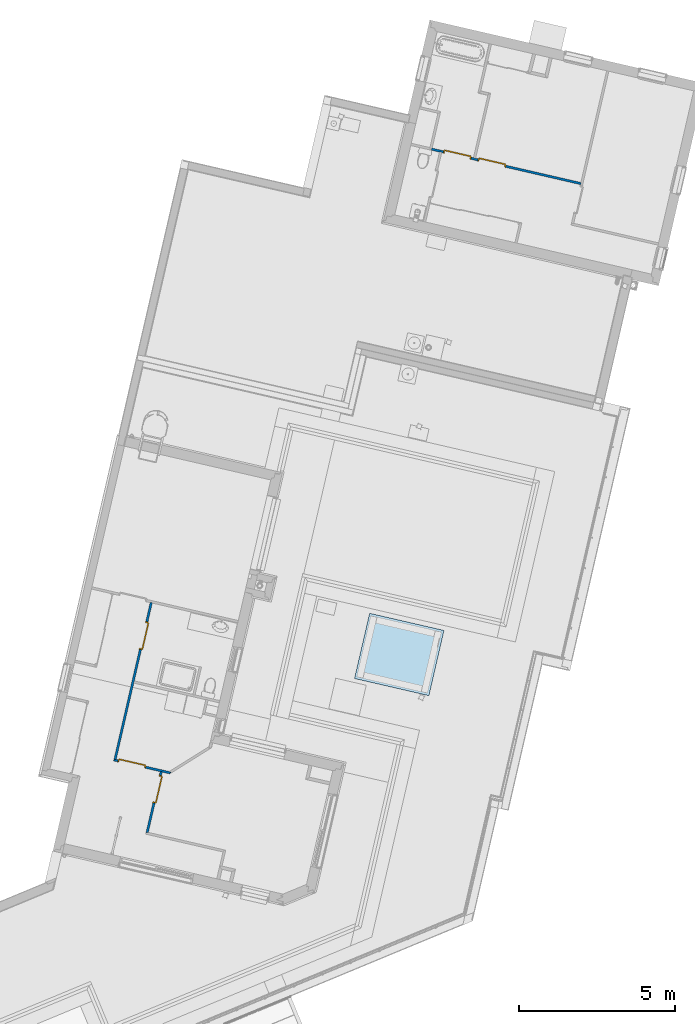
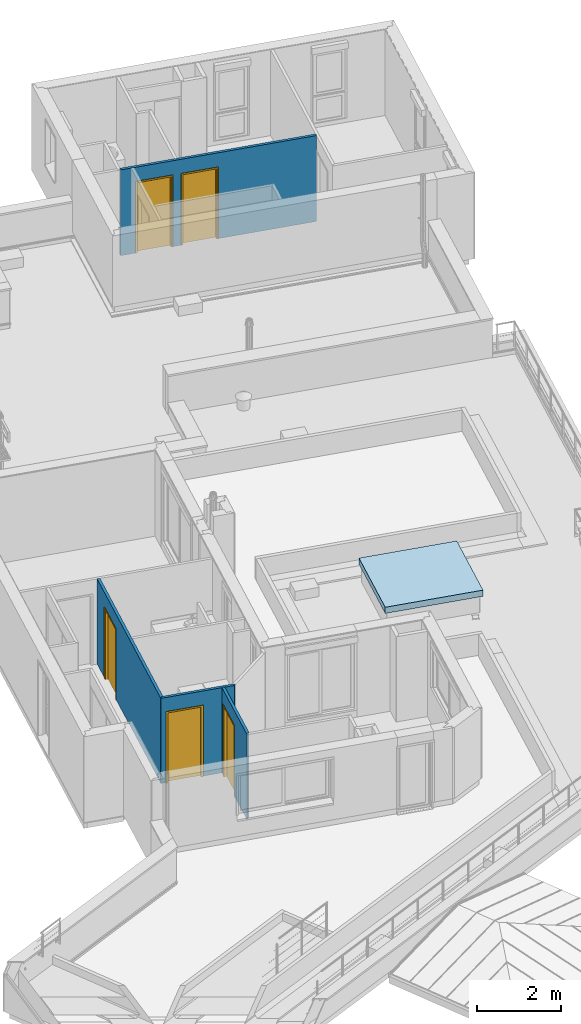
# One storey, part 1 of 47: 5 doors, 4 walls, 1 slab, 5 openings.
"""IFC2X3 building model written with IfcOpenShell, lengths in metres."""

from ifc_helpers import new_model, entity, si_unit, converted_unit, derived_unit, money_unit, direction, frame, origin_with_axes, place, context, subcontext, project, spatial, faceted_brep, source, transform, mapped, material, material_list, type_object, element, fill, save


model = new_model("IFC2X3")

# Units and contexts
model_context = context("Model", 3, precision=1e-05, world=origin_with_axes(), true_north=direction((0.0, 1.0)))
body_context = subcontext(model_context, "Body", "Model", "MODEL_VIEW")
ifc_project = project(units=[si_unit("LENGTHUNIT", "METRE"), si_unit("AREAUNIT", "SQUARE_METRE"), si_unit("VOLUMEUNIT", "CUBIC_METRE"), converted_unit("PLANEANGLEUNIT", "DEGREE", entity("IfcPlaneAngleMeasure", 0.0174532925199), si_unit("PLANEANGLEUNIT", "RADIAN"), dimensions=[0, 0, 0, 0, 0, 0, 0]), si_unit("SOLIDANGLEUNIT", "STERADIAN"), money_unit("EUR"), converted_unit("TIMEUNIT", "Year", entity("IfcTimeMeasure", 31556926.0), si_unit("TIMEUNIT", "SECOND"), dimensions=[0, 0, 1, 0, 0, 0, 0]), si_unit("MASSUNIT", "GRAM", prefix="KILO"), si_unit("THERMODYNAMICTEMPERATUREUNIT", "DEGREE_CELSIUS"), si_unit("LUMINOUSINTENSITYUNIT", "LUMEN"), si_unit("ENERGYUNIT", "JOULE", prefix="MEGA"), derived_unit("THERMALCONDUCTANCEUNIT", [(si_unit("POWERUNIT", "WATT"), 1), (si_unit("LENGTHUNIT", "METRE"), -1), (si_unit("THERMODYNAMICTEMPERATUREUNIT", "KELVIN"), -1)]), derived_unit("SPECIFICHEATCAPACITYUNIT", [(si_unit("ENERGYUNIT", "JOULE"), 1), (si_unit("MASSUNIT", "GRAM", prefix="KILO"), -1), (si_unit("THERMODYNAMICTEMPERATUREUNIT", "KELVIN"), -1)]), derived_unit("MASSDENSITYUNIT", [(si_unit("MASSUNIT", "GRAM", prefix="KILO"), 1), (si_unit("VOLUMEUNIT", "CUBIC_METRE"), -1)])], contexts=[model_context])

# Site, building, storey
site_placement = place(None, origin_with_axes())
site = spatial("IfcSite", under=ifc_project, at=site_placement, Name="Site", CompositionType="ELEMENT")
building_placement = place(site_placement, origin_with_axes())
building = spatial("IfcBuilding", under=site, at=building_placement, Name="Bâtiment", CompositionType="ELEMENT")
storey_placement = place(building_placement, frame((0.0, 0.0, 10.88), z_axis=(0.0, 0.0, 1.0), x_axis=(1.0, 0.0, 0.0)))
storey = spatial("IfcBuildingStorey", under=building, at=storey_placement, Name="R+4", CompositionType="ELEMENT", Elevation=10.88)

# Slab
ifc_material_1 = material(Name="Béton DALLAGE")
slab_type = type_object("IfcSlabType", Name="Béton DALLAGE 180", PredefinedType="ROOF")
slab_placement = place(storey_placement, frame((-9.46752825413, -4.10383265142, 0.859999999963), z_axis=(0.0, 0.0, 1.0), x_axis=(1.0, 0.0, 0.0)))
element("IfcSlab", 1, at=slab_placement, inside=storey, type_object=slab_type, material=ifc_material_1, Name="Dalle_003", PredefinedType="ROOF", context=body_context, shape_type="Brep", body=[
    faceted_brep([(0.0, 0.0, 0.0), (0.0, 0.0, -0.18), (-0.481235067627, -2.08518891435, -0.18), (-0.481235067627, -2.08518891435, 0.0), (2.37750511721, -0.548697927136, 0.0), (2.37750511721, -0.548697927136, -0.18), (1.89627004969, -2.63388684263, -0.18), (1.89627004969, -2.63388684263, 0.0)], [[[0, 1, 2, 3]], [[4, 5, 1, 0]], [[2, 1, 5, 6]], [[3, 2, 6, 7]], [[4, 0, 3, 7]], [[7, 6, 5, 4]]]),
])

# Wall, openings, doors
ifc_material_2 = material(Name="Finition int - Plaque de plâtre")
ifc_material_3 = material(Name="Isolation - Laine de roche")
ifc_material_list = material_list([ifc_material_2, ifc_material_3, ifc_material_2])
wall_type = type_object("IfcWallType", Name="3 - Cloison 72mm Placostil 74", PredefinedType="USERDEFINED")
wall_1_placement = place(storey_placement, frame((-2.73418265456, 9.59035206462, 0.0), z_axis=(0.0, 0.0, 1.0), x_axis=(-0.974387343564, 0.224876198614, 0.0)))
wall_1 = element("IfcWall", 2, at=wall_1_placement, inside=storey, type_object=wall_type, material=ifc_material_list, Name="Cloison Placostil 72/48", ObjectType="PARTITIONING", context=body_context, shape_type="Brep", body=[
    faceted_brep([(4.60639051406, -0.013, 0.0), (4.87496058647, -0.0130000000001, 0.0), (4.87496058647, -0.0130000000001, 2.5), (4.60639051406, -0.013, 2.5), (4.60639051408, 0.0, 0.0), (4.87496058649, 0.0, 0.0), (4.87496058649, 0.0, 2.5), (4.60639051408, 0.0, 2.5)], [[[0, 1, 2, 3]], [[4, 5, 1, 0]], [[5, 6, 2, 1]], [[3, 2, 6, 7]], [[0, 3, 7, 4]], [[7, 6, 5, 4]]]),
    faceted_brep([(4.49917852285, -0.013, 2.08), (4.49917852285, -0.013, 0.0), (4.55839051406, -0.013, 0.0), (4.55839051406, -0.013, 2.5), (0.0, -0.013, 2.5), (0.0, -0.013, 0.0), (2.45283595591, -0.013, 0.0), (2.45283595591, -0.013, 2.08), (3.36283595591, -0.013, 2.08), (3.36283595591, -0.013, 0.0), (3.58917852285, -0.013, 0.0), (3.58917852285, -0.013, 2.08), (4.49917852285, 0.0, 2.08), (4.49917852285, 0.0, 0.0), (4.55839051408, 0.0, 0.0), (4.55839051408, 0.0, 2.5), (0.0, 0.0, 2.5), (0.0, 0.0, 0.0), (2.45283595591, 0.0, 0.0), (2.45283595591, 0.0, 2.08), (3.36283595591, 0.0, 2.08), (3.36283595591, 0.0, 0.0), (3.58917852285, 0.0, 0.0), (3.58917852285, 0.0, 2.08)], [[[0, 1, 2, 3, 4, 5, 6, 7, 8, 9, 10, 11]], [[1, 0, 12, 13]], [[1, 13, 14, 2]], [[3, 2, 14, 15]], [[3, 15, 16, 4]], [[17, 5, 4, 16]], [[6, 5, 17, 18]], [[6, 18, 19, 7]], [[7, 19, 20, 8]], [[8, 20, 21, 9]], [[22, 10, 9, 21]], [[11, 10, 22, 23]], [[0, 11, 23, 12]], [[23, 22, 21, 20, 19, 18, 17, 16, 15, 14, 13, 12]]]),
    faceted_brep([(4.49917852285, -0.061, 2.08), (4.49917852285, -0.0610000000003, 0.0), (4.88796058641, -0.0610000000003, 0.0), (4.88796058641, -0.0610000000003, 2.5), (-0.0130000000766, -0.061, 2.5), (-0.0130000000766, -0.061, 0.0), (2.45283595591, -0.0610000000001, 0.0), (2.45283595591, -0.061, 2.08), (3.36283595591, -0.061, 2.08), (3.36283595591, -0.0610000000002, 0.0), (3.58917852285, -0.0610000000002, 0.0), (3.58917852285, -0.061, 2.08), (4.49917852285, -0.013, 2.08), (4.49917852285, -0.0130000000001, 0.0), (4.88796058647, -0.0130000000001, 0.0), (4.88796058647, -0.0130000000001, 2.5), (-0.0130000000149, -0.013, 2.5), (-0.0130000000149, -0.013, 0.0), (2.45283595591, -0.013, 0.0), (2.45283595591, -0.013, 2.08), (3.36283595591, -0.013, 2.08), (3.36283595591, -0.013, 0.0), (3.58917852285, -0.013, 0.0), (3.58917852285, -0.013, 2.08)], [[[0, 1, 2, 3, 4, 5, 6, 7, 8, 9, 10, 11]], [[1, 0, 12, 13]], [[1, 13, 14, 2]], [[3, 2, 14, 15]], [[15, 16, 4, 3]], [[16, 17, 5, 4]], [[6, 5, 17, 18]], [[6, 18, 19, 7]], [[7, 19, 20, 8]], [[8, 20, 21, 9]], [[22, 10, 9, 21]], [[11, 10, 22, 23]], [[0, 11, 23, 12]], [[23, 22, 21, 20, 19, 18, 17, 16, 15, 14, 13, 12]]]),
    faceted_brep([(4.49917852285, -0.074, 2.08), (4.49917852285, -0.0740000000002, 0.0), (4.8749605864, -0.0740000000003, 0.0), (4.8749605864, -0.0740000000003, 2.5), (3.50916886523, -0.074, 2.5), (3.50916886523, -0.074, 0.0), (3.58917852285, -0.074, 0.0), (3.58917852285, -0.074, 2.08), (4.49917852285, -0.061, 2.08), (4.49917852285, -0.0610000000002, 0.0), (4.87496058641, -0.0610000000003, 0.0), (4.87496058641, -0.0610000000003, 2.5), (3.50916886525, -0.061, 2.5), (3.50916886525, -0.061, 0.0), (3.58917852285, -0.061, 0.0), (3.58917852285, -0.061, 2.08)], [[[0, 1, 2, 3, 4, 5, 6, 7]], [[1, 0, 8, 9]], [[1, 9, 10, 2]], [[11, 3, 2, 10]], [[3, 11, 12, 4]], [[4, 12, 13, 5]], [[14, 6, 5, 13]], [[7, 6, 14, 15]], [[0, 7, 15, 8]], [[15, 14, 13, 12, 11, 10, 9, 8]]]),
    faceted_brep([(3.36283595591, -0.074, 2.08), (3.36283595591, -0.074, 0.0), (3.46116886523, -0.074, 0.0), (3.46116886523, -0.074, 2.5), (0.0, -0.074, 2.5), (0.0, -0.074, 0.0), (2.45283595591, -0.074, 0.0), (2.45283595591, -0.074, 2.08), (3.36283595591, -0.061, 2.08), (3.36283595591, -0.061, 0.0), (3.46116886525, -0.061, 0.0), (3.46116886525, -0.061, 2.5), (0.0, -0.061, 2.5), (0.0, -0.061, 0.0), (2.45283595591, -0.061, 0.0), (2.45283595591, -0.061, 2.08)], [[[0, 1, 2, 3, 4, 5, 6, 7]], [[1, 0, 8, 9]], [[1, 9, 10, 2]], [[11, 3, 2, 10]], [[4, 3, 11, 12]], [[12, 13, 5, 4]], [[14, 6, 5, 13]], [[7, 6, 14, 15]], [[0, 7, 15, 8]], [[15, 14, 13, 12, 11, 10, 9, 8]]]),
])
opening_1_placement = place(wall_1_placement, frame((2.90783595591, 0.0, 0.0), z_axis=(0.0, 0.0, 1.0), x_axis=(1.0, 0.0, 0.0)))
opening_1 = element("IfcOpeningElement", 3, at=opening_1_placement, cuts=wall_1, Name="Porte 83x204 bois alvéolaire", context=body_context, shape_type="Brep", body=[
    faceted_brep([(0.455, -0.074, 0.0), (-0.455, -0.074, 0.0), (-0.455, 0.074, 0.0), (0.455, 0.074, 0.0), (0.455, -0.074, 2.08), (-0.455, -0.074, 2.08), (-0.455, 0.074, 2.08), (0.455, 0.074, 2.08)], [[[0, 1, 2, 3]], [[0, 4, 5, 1]], [[1, 5, 6, 2]], [[3, 2, 6, 7]], [[4, 0, 3, 7]], [[5, 4, 7, 6]]]),
])
opening_2_placement = place(wall_1_placement, frame((4.04417852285, 0.0, 0.0), z_axis=(0.0, 0.0, 1.0), x_axis=(1.0, 0.0, 0.0)))
opening_2 = element("IfcOpeningElement", 4, at=opening_2_placement, cuts=wall_1, Name="Porte 83x204 bois alvéolaire", context=body_context, shape_type="Brep", body=[
    faceted_brep([(-0.455, 0.074, 0.0), (0.455, 0.074, 0.0), (0.455, -0.074, 0.0), (-0.455, -0.074, 0.0), (-0.455, 0.074, 2.08), (0.455, 0.074, 2.08), (0.455, -0.074, 2.08), (-0.455, -0.074, 2.08)], [[[0, 1, 2, 3]], [[0, 4, 5, 1]], [[1, 5, 6, 2]], [[3, 2, 6, 7]], [[4, 0, 3, 7]], [[5, 4, 7, 6]]]),
])
door_style_1 = type_object("IfcDoorStyle", Name="Porte int générique 2019", ConstructionType="NOTDEFINED", OperationType="SINGLE_SWING_RIGHT", ParameterTakesPrecedence=False, Sizeable=False)
shared_shape_1 = source(origin_with_axes(), body_context, "Body", "Brep", [
    faceted_brep([(0.455, 0.0, 0.0), (0.415, 0.0, 0.0), (0.415, 0.0, 2.04), (-0.415, 0.0, 2.04), (-0.415, 0.0, 0.0), (-0.455, 0.0, 0.0), (-0.455, 0.0, 2.08), (0.455, 0.0, 2.08), (0.455, -0.074, 0.0), (0.415, -0.074, 0.0), (0.415, -0.074, 2.04), (-0.415, -0.074, 2.04), (-0.415, -0.074, 0.0), (-0.455, -0.074, 0.0), (-0.455, -0.074, 2.08), (0.455, -0.074, 2.08)], [[[0, 1, 2, 3, 4, 5, 6, 7]], [[0, 8, 9, 1]], [[1, 9, 10, 2]], [[2, 10, 11, 3]], [[3, 11, 12, 4]], [[5, 4, 12, 13]], [[14, 6, 5, 13]], [[15, 7, 6, 14]], [[8, 0, 7, 15]], [[9, 8, 15, 14, 13, 12, 11, 10]]]),
    faceted_brep([(0.465, 0.0, 0.0), (0.465, 0.01, 0.0), (0.465, 0.01, 2.09), (0.465, 0.0, 2.09), (0.435, 0.0, 0.0), (0.435, 0.01, 0.0), (0.435, 0.01, 2.06), (-0.435, 0.01, 2.06), (-0.435, 0.01, 0.0), (-0.465, 0.01, 0.0), (-0.465, 0.01, 2.09), (-0.465, 0.0, 2.09), (-0.465, 0.0, 0.0), (-0.435, 0.0, 0.0), (-0.435, 0.0, 2.06), (0.435, 0.0, 2.06)], [[[0, 1, 2, 3]], [[0, 4, 5, 1]], [[1, 5, 6, 7, 8, 9, 10, 2]], [[3, 2, 10, 11]], [[4, 0, 3, 11, 12, 13, 14, 15]], [[5, 4, 15, 6]], [[6, 15, 14, 7]], [[7, 14, 13, 8]], [[12, 9, 8, 13]], [[11, 10, 9, 12]]]),
    faceted_brep([(0.465, -0.084, 0.0), (0.465, -0.074, 0.0), (0.465, -0.074, 2.09), (0.465, -0.084, 2.09), (0.435, -0.084, 0.0), (0.435, -0.074, 0.0), (0.435, -0.074, 2.06), (-0.435, -0.074, 2.06), (-0.435, -0.074, 0.0), (-0.465, -0.074, 0.0), (-0.465, -0.074, 2.09), (-0.465, -0.084, 2.09), (-0.465, -0.084, 0.0), (-0.435, -0.084, 0.0), (-0.435, -0.084, 2.06), (0.435, -0.084, 2.06)], [[[0, 1, 2, 3]], [[0, 4, 5, 1]], [[1, 5, 6, 7, 8, 9, 10, 2]], [[3, 2, 10, 11]], [[4, 0, 3, 11, 12, 13, 14, 15]], [[5, 4, 15, 6]], [[6, 15, 14, 7]], [[7, 14, 13, 8]], [[12, 9, 8, 13]], [[11, 10, 9, 12]]]),
    faceted_brep([(0.435, 0.04, 0.0), (0.435, 0.0, 0.0), (-0.435, 0.0, 0.0), (-0.435, 0.04, 0.0), (0.435, 0.04, 2.06), (0.435, 0.0, 2.06), (-0.435, 0.0, 2.06), (-0.435, 0.04, 2.06)], [[[0, 1, 2, 3]], [[4, 5, 1, 0]], [[1, 5, 6, 2]], [[3, 2, 6, 7]], [[0, 3, 7, 4]], [[7, 6, 5, 4]]]),
])
door_1_placement = place(opening_2_placement, frame((0.415, 0.0, 0.0), z_axis=(0.0, 0.0, 1.0), x_axis=(-1.0, 0.0, 0.0)))
door_1 = element("IfcDoor", 5, at=door_1_placement, inside=storey, type_object=door_style_1, Name="Porte 83x204 bois alvéolaire", ObjectType="DOOR", OverallHeight=2.04, OverallWidth=0.83, context=body_context, shape_type="MappedRepresentation", body=[
    mapped(shared_shape_1, transform((0.415, 0.074, 0.0))),
])
fill(opening_2, door_1)
door_style_2 = type_object("IfcDoorStyle", Name="Porte int générique 2019", ConstructionType="NOTDEFINED", OperationType="SINGLE_SWING_LEFT", ParameterTakesPrecedence=False, Sizeable=False)
shared_shape_2 = source(origin_with_axes(), body_context, "Body", "Brep", [
    faceted_brep([(-0.455, 0.0, 0.0), (-0.455, 0.0, 2.08), (0.455, 0.0, 2.08), (0.455, 0.0, 0.0), (0.415, 0.0, 0.0), (0.415, 0.0, 2.04), (-0.415, 0.0, 2.04), (-0.415, 0.0, 0.0), (-0.455, -0.074, 0.0), (-0.455, -0.074, 2.08), (0.455, -0.074, 2.08), (0.455, -0.074, 0.0), (0.415, -0.074, 0.0), (0.415, -0.074, 2.04), (-0.415, -0.074, 2.04), (-0.415, -0.074, 0.0)], [[[0, 1, 2, 3, 4, 5, 6, 7]], [[8, 9, 1, 0]], [[9, 10, 2, 1]], [[10, 11, 3, 2]], [[3, 11, 12, 4]], [[5, 4, 12, 13]], [[6, 5, 13, 14]], [[7, 6, 14, 15]], [[0, 7, 15, 8]], [[15, 14, 13, 12, 11, 10, 9, 8]]]),
    faceted_brep([(-0.465, 0.0, 0.0), (-0.465, 0.0, 2.09), (-0.465, 0.01, 2.09), (-0.465, 0.01, 0.0), (-0.435, 0.0, 0.0), (-0.435, 0.0, 2.06), (0.435, 0.0, 2.06), (0.435, 0.0, 0.0), (0.465, 0.0, 0.0), (0.465, 0.0, 2.09), (0.465, 0.01, 2.09), (0.465, 0.01, 0.0), (0.435, 0.01, 0.0), (0.435, 0.01, 2.06), (-0.435, 0.01, 2.06), (-0.435, 0.01, 0.0)], [[[0, 1, 2, 3]], [[4, 5, 6, 7, 8, 9, 1, 0]], [[1, 9, 10, 2]], [[3, 2, 10, 11, 12, 13, 14, 15]], [[0, 3, 15, 4]], [[15, 14, 5, 4]], [[14, 13, 6, 5]], [[13, 12, 7, 6]], [[8, 7, 12, 11]], [[9, 8, 11, 10]]]),
    faceted_brep([(-0.465, -0.084, 0.0), (-0.465, -0.084, 2.09), (-0.465, -0.074, 2.09), (-0.465, -0.074, 0.0), (-0.435, -0.084, 0.0), (-0.435, -0.084, 2.06), (0.435, -0.084, 2.06), (0.435, -0.084, 0.0), (0.465, -0.084, 0.0), (0.465, -0.084, 2.09), (0.465, -0.074, 2.09), (0.465, -0.074, 0.0), (0.435, -0.074, 0.0), (0.435, -0.074, 2.06), (-0.435, -0.074, 2.06), (-0.435, -0.074, 0.0)], [[[0, 1, 2, 3]], [[4, 5, 6, 7, 8, 9, 1, 0]], [[1, 9, 10, 2]], [[3, 2, 10, 11, 12, 13, 14, 15]], [[0, 3, 15, 4]], [[15, 14, 5, 4]], [[14, 13, 6, 5]], [[13, 12, 7, 6]], [[8, 7, 12, 11]], [[9, 8, 11, 10]]]),
    faceted_brep([(-0.435, 0.04, 0.0), (0.435, 0.04, 0.0), (0.435, 0.0, 0.0), (-0.435, 0.0, 0.0), (-0.435, 0.04, 2.06), (0.435, 0.04, 2.06), (0.435, 0.0, 2.06), (-0.435, 0.0, 2.06)], [[[0, 1, 2, 3]], [[0, 4, 5, 1]], [[1, 5, 6, 2]], [[3, 2, 6, 7]], [[4, 0, 3, 7]], [[5, 4, 7, 6]]]),
])
door_2_placement = place(opening_1_placement, frame((0.415, 0.0, 0.0), z_axis=(0.0, 0.0, 1.0), x_axis=(-1.0, 0.0, 0.0)))
door_2 = element("IfcDoor", 6, at=door_2_placement, inside=storey, type_object=door_style_2, Name="Porte 83x204 bois alvéolaire", ObjectType="DOOR", OverallHeight=2.04, OverallWidth=0.83, context=body_context, shape_type="MappedRepresentation", body=[
    mapped(shared_shape_2, transform((0.415, 0.074, 0.0))),
])
fill(opening_1, door_2)

# Wall, opening, door
wall_2_placement = place(storey_placement, frame((-17.6485950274, -8.82295164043, 0.0), z_axis=(0.0, 0.0, 1.0), x_axis=(0.974387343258, -0.224876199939, 0.0)))
wall_2 = element("IfcWall", 7, at=wall_2_placement, inside=storey, type_object=wall_type, material=ifc_material_list, Name="Cloison Placostil 72/48", ObjectType="PARTITIONING", context=body_context, shape_type="Brep", body=[
    faceted_brep([(0.135588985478, 0.074, 2.08), (0.135588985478, 0.074, 0.02), (0.0609999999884, 0.074, 0.02), (0.0609999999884, 0.074, 2.5), (1.82889778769, 0.074, 2.5), (1.82889778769, 0.074, 0.02), (1.04558898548, 0.074, 0.02), (1.04558898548, 0.074, 2.08), (0.135588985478, 0.061, 2.08), (0.135588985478, 0.061, 0.02), (0.0609999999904, 0.061, 0.02), (0.0609999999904, 0.061, 2.5), (1.81589778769, 0.061, 2.5), (1.81589778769, 0.061, 0.02), (1.04558898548, 0.061, 0.02), (1.04558898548, 0.061, 2.08)], [[[0, 1, 2, 3, 4, 5, 6, 7]], [[1, 0, 8, 9]], [[1, 9, 10, 2]], [[10, 11, 3, 2]], [[4, 3, 11, 12]], [[5, 4, 12, 13]], [[14, 6, 5, 13]], [[7, 6, 14, 15]], [[0, 7, 15, 8]], [[15, 14, 13, 12, 11, 10, 9, 8]]]),
    faceted_brep([(0.135588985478, 0.061, 2.08), (0.135588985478, 0.061, 0.02), (0.0129999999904, 0.061, 0.02), (0.0129999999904, 0.061, 2.5), (1.88378003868, 0.061, 2.5), (1.88378003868, 0.061, 0.02), (1.04558898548, 0.061, 0.02), (1.04558898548, 0.061, 2.08), (0.135588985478, 0.013, 2.08), (0.135588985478, 0.013, 0.02), (0.012999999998, 0.013, 0.02), (0.012999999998, 0.013, 2.5), (1.83578003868, 0.013, 2.5), (1.83578003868, 0.013, 0.02), (1.04558898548, 0.013, 0.02), (1.04558898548, 0.013, 2.08)], [[[0, 1, 2, 3, 4, 5, 6, 7]], [[1, 0, 8, 9]], [[1, 9, 10, 2]], [[10, 11, 3, 2]], [[4, 3, 11, 12]], [[5, 4, 12, 13]], [[14, 6, 5, 13]], [[7, 6, 14, 15]], [[0, 7, 15, 8]], [[15, 14, 13, 12, 11, 10, 9, 8]]]),
    faceted_brep([(0.135588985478, 0.013, 2.08), (0.135588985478, 0.013, 0.02), (0.0, 0.013, 0.02), (0.0, 0.013, 2.5), (1.53700000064, 0.013, 2.5), (1.53700000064, 0.013, 0.02), (1.04558898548, 0.013, 0.02), (1.04558898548, 0.013, 2.08), (0.135588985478, 0.0, 2.08), (0.135588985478, 0.0, 0.02), (0.0, 0.0, 0.02), (0.0, 0.0, 2.5), (1.53700000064, 0.0, 2.5), (1.53700000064, 0.0, 0.02), (1.04558898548, 0.0, 0.02), (1.04558898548, 0.0, 2.08)], [[[0, 1, 2, 3, 4, 5, 6, 7]], [[1, 0, 8, 9]], [[1, 9, 10, 2]], [[10, 11, 3, 2]], [[4, 3, 11, 12]], [[5, 4, 12, 13]], [[14, 6, 5, 13]], [[7, 6, 14, 15]], [[0, 7, 15, 8]], [[15, 14, 13, 12, 11, 10, 9, 8]]]),
    faceted_brep([(1.841164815, 0.0, 0.02), (1.85416481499, 0.013, 0.02), (1.85416481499, 0.013, 2.5), (1.841164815, 0.0, 2.5), (1.58500000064, 0.013, 0.02), (1.58500000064, 0.0, 0.02), (1.58500000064, 0.013, 2.5), (1.58500000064, 0.0, 2.5)], [[[0, 1, 2, 3]], [[4, 1, 0, 5]], [[1, 4, 6, 2]], [[3, 2, 6, 7]], [[5, 0, 3, 7]], [[4, 5, 7, 6]]]),
])
opening_3_placement = place(wall_2_placement, frame((0.590588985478, 0.0, 0.0), z_axis=(0.0, 0.0, 1.0), x_axis=(1.0, 0.0, 0.0)))
opening_3 = element("IfcOpeningElement", 8, at=opening_3_placement, cuts=wall_2, Name="Porte 83x204 bois alvéolaire", context=body_context, shape_type="Brep", body=[
    faceted_brep([(-0.455, 0.074, 0.0), (0.455, 0.074, 0.0), (0.455, -0.074, 0.0), (-0.455, -0.074, 0.0), (-0.455, 0.074, 2.08), (0.455, 0.074, 2.08), (0.455, -0.074, 2.08), (-0.455, -0.074, 2.08)], [[[0, 1, 2, 3]], [[0, 4, 5, 1]], [[1, 5, 6, 2]], [[3, 2, 6, 7]], [[4, 0, 3, 7]], [[5, 4, 7, 6]]]),
])
shared_shape_3 = source(origin_with_axes(), body_context, "Body", "Brep", [
    faceted_brep([(-0.455, -0.006, 0.0), (-0.455, -0.006, 2.08), (0.455, -0.006, 2.08), (0.455, -0.006, 0.0), (0.415, -0.006, 0.0), (0.415, -0.006, 2.04), (-0.415, -0.006, 2.04), (-0.415, -0.006, 0.0), (-0.455, -0.08, 0.0), (-0.455, -0.08, 2.08), (0.455, -0.08, 2.08), (0.455, -0.08, 0.0), (0.415, -0.08, 0.0), (0.415, -0.08, 2.04), (-0.415, -0.08, 2.04), (-0.415, -0.08, 0.0)], [[[0, 1, 2, 3, 4, 5, 6, 7]], [[8, 9, 1, 0]], [[9, 10, 2, 1]], [[10, 11, 3, 2]], [[3, 11, 12, 4]], [[5, 4, 12, 13]], [[6, 5, 13, 14]], [[7, 6, 14, 15]], [[0, 7, 15, 8]], [[15, 14, 13, 12, 11, 10, 9, 8]]]),
    faceted_brep([(-0.465, -0.006, 0.0), (-0.465, -0.006, 2.09), (-0.465, 0.004, 2.09), (-0.465, 0.004, 0.0), (-0.435, -0.006, 0.0), (-0.435, -0.006, 2.06), (0.435, -0.006, 2.06), (0.435, -0.006, 0.0), (0.465, -0.006, 0.0), (0.465, -0.006, 2.09), (0.465, 0.004, 2.09), (0.465, 0.004, 0.0), (0.435, 0.004, 0.0), (0.435, 0.004, 2.06), (-0.435, 0.004, 2.06), (-0.435, 0.004, 0.0)], [[[0, 1, 2, 3]], [[4, 5, 6, 7, 8, 9, 1, 0]], [[1, 9, 10, 2]], [[3, 2, 10, 11, 12, 13, 14, 15]], [[0, 3, 15, 4]], [[15, 14, 5, 4]], [[14, 13, 6, 5]], [[13, 12, 7, 6]], [[8, 7, 12, 11]], [[9, 8, 11, 10]]]),
    faceted_brep([(-0.465, -0.09, 0.0), (-0.465, -0.09, 2.09), (-0.465, -0.08, 2.09), (-0.465, -0.08, 0.0), (-0.435, -0.09, 0.0), (-0.435, -0.09, 2.06), (0.435, -0.09, 2.06), (0.435, -0.09, 0.0), (0.465, -0.09, 0.0), (0.465, -0.09, 2.09), (0.465, -0.08, 2.09), (0.465, -0.08, 0.0), (0.435, -0.08, 0.0), (0.435, -0.08, 2.06), (-0.435, -0.08, 2.06), (-0.435, -0.08, 0.0)], [[[0, 1, 2, 3]], [[4, 5, 6, 7, 8, 9, 1, 0]], [[1, 9, 10, 2]], [[3, 2, 10, 11, 12, 13, 14, 15]], [[0, 3, 15, 4]], [[15, 14, 5, 4]], [[14, 13, 6, 5]], [[13, 12, 7, 6]], [[8, 7, 12, 11]], [[9, 8, 11, 10]]]),
    faceted_brep([(-0.435, 0.034, 0.0), (0.435, 0.034, 0.0), (0.435, -0.006, 0.0), (-0.435, -0.006, 0.0), (-0.435, 0.034, 2.06), (0.435, 0.034, 2.06), (0.435, -0.006, 2.06), (-0.435, -0.006, 2.06)], [[[0, 1, 2, 3]], [[0, 4, 5, 1]], [[1, 5, 6, 2]], [[3, 2, 6, 7]], [[4, 0, 3, 7]], [[5, 4, 7, 6]]]),
])
door_3_placement = place(opening_3_placement, frame((-0.415, 0.0, 0.0), z_axis=(0.0, 0.0, 1.0), x_axis=(1.0, 0.0, 0.0)))
door_3 = element("IfcDoor", 9, at=door_3_placement, inside=storey, type_object=door_style_2, Name="Porte 83x204 bois alvéolaire", ObjectType="DOOR", OverallHeight=2.04, OverallWidth=0.83, context=body_context, shape_type="MappedRepresentation", body=[
    mapped(shared_shape_3, transform((0.415, 0.08, 0.0))),
])
fill(opening_3, door_3)

wall_3_placement = place(storey_placement, frame((-16.463990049, -3.69006475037, 0.0), z_axis=(0.0, 0.0, 1.0), x_axis=(-0.224876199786, -0.974387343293, 0.0)))
wall_3 = element("IfcWall", 10, at=wall_3_placement, inside=storey, type_object=wall_type, material=ifc_material_list, Name="Cloison Placostil 72/48", ObjectType="PARTITIONING", context=body_context, shape_type="Brep", body=[
    faceted_brep([(1.60330589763, 0.074, 0.02), (1.60330589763, 0.074, 2.08), (0.69330589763, 0.074, 2.08), (0.69330589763, 0.074, 0.02), (0.0740000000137, 0.074, 0.02), (0.0740000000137, 0.074, 2.5), (2.63699999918, 0.074, 2.5), (2.63699999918, 0.074, 0.02), (1.60330589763, 0.061, 0.02), (1.60330589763, 0.061, 2.08), (0.69330589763, 0.061, 2.08), (0.69330589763, 0.061, 0.02), (0.0740000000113, 0.061, 0.02), (0.0740000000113, 0.061, 2.5), (2.63699999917, 0.061, 2.5), (2.63699999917, 0.061, 0.02)], [[[0, 1, 2, 3, 4, 5, 6, 7]], [[1, 0, 8, 9]], [[2, 1, 9, 10]], [[3, 2, 10, 11]], [[3, 11, 12, 4]], [[12, 13, 5, 4]], [[6, 5, 13, 14]], [[7, 6, 14, 15]], [[8, 0, 7, 15]], [[9, 8, 15, 14, 13, 12, 11, 10]]]),
    faceted_brep([(2.68499999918, 0.074, 0.02), (2.68499999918, 0.074, 2.5), (5.19380948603, 0.074, 2.5), (5.19380948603, 0.074, 0.02), (2.68499999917, 0.061, 0.02), (2.68499999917, 0.061, 2.5), (5.19380948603, 0.061, 2.5), (5.19380948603, 0.061, 0.02)], [[[0, 1, 2, 3]], [[0, 4, 5, 1]], [[6, 2, 1, 5]], [[7, 3, 2, 6]], [[4, 0, 3, 7]], [[4, 7, 6, 5]]]),
    faceted_brep([(1.60330589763, 0.061, 0.02), (1.60330589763, 0.061, 2.08), (0.69330589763, 0.061, 2.08), (0.69330589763, 0.061, 0.02), (0.0610000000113, 0.061, 0.02), (0.0610000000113, 0.061, 2.5), (5.20680948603, 0.061, 2.5), (5.20680948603, 0.061, 0.02), (1.60330589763, 0.013, 0.02), (1.60330589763, 0.013, 2.08), (0.69330589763, 0.013, 2.08), (0.69330589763, 0.013, 0.02), (0.0610000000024, 0.013, 0.02), (0.0610000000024, 0.013, 2.5), (5.20680948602, 0.013, 2.5), (5.20680948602, 0.013, 0.02)], [[[0, 1, 2, 3, 4, 5, 6, 7]], [[1, 0, 8, 9]], [[2, 1, 9, 10]], [[3, 2, 10, 11]], [[3, 11, 12, 4]], [[12, 13, 5, 4]], [[6, 5, 13, 14]], [[7, 6, 14, 15]], [[8, 0, 7, 15]], [[9, 8, 15, 14, 13, 12, 11, 10]]]),
    faceted_brep([(1.60330589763, 0.013, 0.02), (1.60330589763, 0.013, 2.08), (0.69330589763, 0.013, 2.08), (0.69330589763, 0.013, 0.02), (0.0740000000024, 0.013, 0.02), (0.0740000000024, 0.013, 2.5), (5.25480948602, 0.013, 2.5), (5.25480948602, 0.013, 0.02), (1.60330589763, 0.0, 0.02), (1.60330589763, 0.0, 2.08), (0.69330589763, 0.0, 2.08), (0.69330589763, 0.0, 0.02), (0.074, 0.0, 0.02), (0.074, 0.0, 2.5), (5.25480948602, 0.0, 2.5), (5.25480948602, 0.0, 0.02)], [[[0, 1, 2, 3, 4, 5, 6, 7]], [[1, 0, 8, 9]], [[2, 1, 9, 10]], [[3, 2, 10, 11]], [[3, 11, 12, 4]], [[12, 13, 5, 4]], [[6, 5, 13, 14]], [[7, 6, 14, 15]], [[8, 0, 7, 15]], [[9, 8, 15, 14, 13, 12, 11, 10]]]),
])
opening_4_placement = place(wall_3_placement, frame((1.14830589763, 0.0, 0.0), z_axis=(0.0, 0.0, 1.0), x_axis=(1.0, 0.0, 0.0)))
opening_4 = element("IfcOpeningElement", 11, at=opening_4_placement, cuts=wall_3, Name="Porte 83x204 bois alvéolaire", context=body_context, shape_type="Brep", body=[
    faceted_brep([(-0.455, 0.074, 0.0), (0.455, 0.074, 0.0), (0.455, -0.074, 0.0), (-0.455, -0.074, 0.0), (-0.455, 0.074, 2.08), (0.455, 0.074, 2.08), (0.455, -0.074, 2.08), (-0.455, -0.074, 2.08)], [[[0, 1, 2, 3]], [[0, 4, 5, 1]], [[1, 5, 6, 2]], [[3, 2, 6, 7]], [[4, 0, 3, 7]], [[5, 4, 7, 6]]]),
])
door_4_placement = place(opening_4_placement, frame((-0.415, 0.0, 0.0), z_axis=(0.0, 0.0, 1.0), x_axis=(1.0, 0.0, 0.0)))
door_4 = element("IfcDoor", 12, at=door_4_placement, inside=storey, type_object=door_style_2, Name="Porte 83x204 bois alvéolaire", ObjectType="DOOR", OverallHeight=2.04, OverallWidth=0.83, context=body_context, shape_type="MappedRepresentation", body=[
    mapped(shared_shape_2, transform((0.415, 0.074, 0.0))),
])
fill(opening_4, door_4)

wall_4_placement = place(storey_placement, frame((-16.6070815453, -11.087141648, 0.0), z_axis=(0.0, 0.0, 1.0), x_axis=(0.224876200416, 0.974387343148, 0.0)))
wall_4 = element("IfcWall", 13, at=wall_4_placement, inside=storey, type_object=wall_type, material=ifc_material_list, Name="Cloison Placostil 72/48", ObjectType="PARTITIONING", context=body_context, shape_type="Brep", body=[
    faceted_brep([(0.952926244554, -0.013, 0.02), (0.952926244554, -0.013, 2.08), (1.86292624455, -0.013, 2.08), (1.86292624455, -0.013, 0.02), (1.97198649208, -0.013, 0.02), (1.97198649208, -0.013, 2.5), (-0.061, -0.013, 2.5), (-0.061, -0.013, 0.02), (0.952926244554, 0.0, 0.02), (0.952926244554, 0.0, 2.08), (1.86292624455, 0.0, 2.08), (1.86292624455, 0.0, 0.02), (1.97198649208, 0.0, 0.02), (1.97198649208, 0.0, 2.5), (-0.061, 0.0, 2.5), (-0.061, 0.0, 0.02)], [[[0, 1, 2, 3, 4, 5, 6, 7]], [[1, 0, 8, 9]], [[2, 1, 9, 10]], [[3, 2, 10, 11]], [[3, 11, 12, 4]], [[12, 13, 5, 4]], [[13, 14, 6, 5]], [[7, 6, 14, 15]], [[8, 0, 7, 15]], [[9, 8, 15, 14, 13, 12, 11, 10]]]),
    faceted_brep([(0.952926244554, -0.061, 0.02), (0.952926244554, -0.061, 2.08), (1.86292624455, -0.061, 2.08), (1.86292624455, -0.061, 0.02), (1.98498649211, -0.061, 0.02), (1.98498649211, -0.061, 2.5), (-0.013, -0.061, 2.5), (-0.013, -0.061, 0.02), (0.952926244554, -0.013, 0.02), (0.952926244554, -0.013, 2.08), (1.86292624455, -0.013, 2.08), (1.86292624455, -0.013, 0.02), (1.98498649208, -0.013, 0.02), (1.98498649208, -0.013, 2.5), (-0.013, -0.013, 2.5), (-0.013, -0.013, 0.02)], [[[0, 1, 2, 3, 4, 5, 6, 7]], [[1, 0, 8, 9]], [[2, 1, 9, 10]], [[3, 2, 10, 11]], [[3, 11, 12, 4]], [[12, 13, 5, 4]], [[13, 14, 6, 5]], [[7, 6, 14, 15]], [[8, 0, 7, 15]], [[9, 8, 15, 14, 13, 12, 11, 10]]]),
    faceted_brep([(0.952926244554, -0.074, 0.02), (0.952926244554, -0.074, 2.08), (1.86292624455, -0.074, 2.08), (1.86292624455, -0.074, 0.02), (1.97198649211, -0.074, 0.02), (1.97198649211, -0.074, 2.5), (0.0, -0.074, 2.5), (0.0, -0.074, 0.02), (0.952926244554, -0.061, 0.02), (0.952926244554, -0.061, 2.08), (1.86292624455, -0.061, 2.08), (1.86292624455, -0.061, 0.02), (1.97198649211, -0.061, 0.02), (1.97198649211, -0.061, 2.5), (0.0, -0.061, 2.5), (0.0, -0.061, 0.02)], [[[0, 1, 2, 3, 4, 5, 6, 7]], [[1, 0, 8, 9]], [[2, 1, 9, 10]], [[3, 2, 10, 11]], [[3, 11, 12, 4]], [[12, 13, 5, 4]], [[13, 14, 6, 5]], [[7, 6, 14, 15]], [[8, 0, 7, 15]], [[9, 8, 15, 14, 13, 12, 11, 10]]]),
])
opening_5_placement = place(wall_4_placement, frame((1.40792624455, 0.0, 0.0), z_axis=(0.0, 0.0, 1.0), x_axis=(1.0, 0.0, 0.0)))
opening_5 = element("IfcOpeningElement", 14, at=opening_5_placement, cuts=wall_4, Name="Porte 83x204 bois alvéolaire", context=body_context, shape_type="Brep", body=[
    faceted_brep([(0.455, -0.074, 0.0), (-0.455, -0.074, 0.0), (-0.455, 0.074, 0.0), (0.455, 0.074, 0.0), (0.455, -0.074, 2.08), (-0.455, -0.074, 2.08), (-0.455, 0.074, 2.08), (0.455, 0.074, 2.08)], [[[0, 1, 2, 3]], [[0, 4, 5, 1]], [[1, 5, 6, 2]], [[3, 2, 6, 7]], [[4, 0, 3, 7]], [[5, 4, 7, 6]]]),
])
door_5_placement = place(opening_5_placement, frame((0.415, 0.0, 0.0), z_axis=(0.0, 0.0, 1.0), x_axis=(-1.0, 0.0, 0.0)))
door_5 = element("IfcDoor", 15, at=door_5_placement, inside=storey, type_object=door_style_2, Name="Porte 83x204 bois alvéolaire", ObjectType="DOOR", OverallHeight=2.04, OverallWidth=0.83, context=body_context, shape_type="MappedRepresentation", body=[
    mapped(shared_shape_2, transform((0.415, 0.074, 0.0))),
])
fill(opening_5, door_5)

save(model, "model.ifc")
